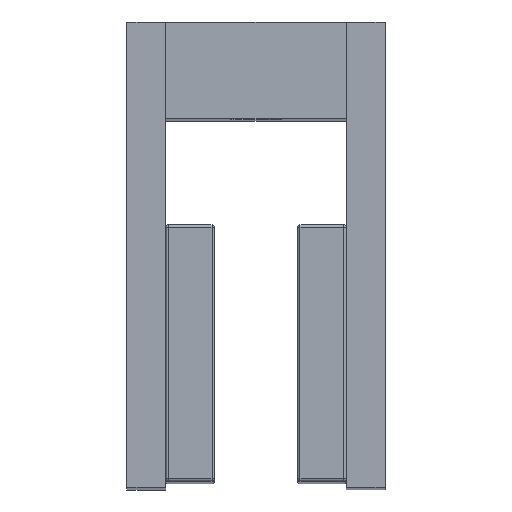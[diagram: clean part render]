
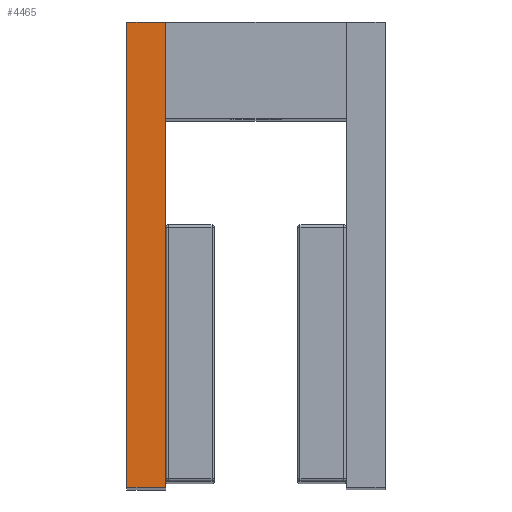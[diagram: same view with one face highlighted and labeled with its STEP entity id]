
A CAD part, top view. The second image highlights one B-rep face of the part: STEP entity #4465.
In plain terms, the highlighted planar face has unit normal (0, 0, 1) as drawn and (-1, 0, 0) by its records, which use the part's own axes.
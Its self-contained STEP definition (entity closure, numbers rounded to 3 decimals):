
#1608 = VERTEX_POINT ( 'NONE', #16107 ) ;
#2167 = FACE_OUTER_BOUND ( 'NONE', #11105, .T. ) ;
#2402 = VECTOR ( 'NONE', #16058, 1000. ) ;
#2984 = DIRECTION ( 'NONE',  ( 0., 0., -1. ) ) ;
#3138 = EDGE_CURVE ( 'NONE', #8458, #3214, #6064, .T. ) ;
#3214 = VERTEX_POINT ( 'NONE', #13606 ) ;
#3229 = CARTESIAN_POINT ( 'NONE',  ( 0., 38.1, 3.175 ) ) ;
#3396 = CARTESIAN_POINT ( 'NONE',  ( 0., 0., 3.175 ) ) ;
#3690 = ORIENTED_EDGE ( 'NONE', *, *, #3138, .T. ) ;
#3919 = DIRECTION ( 'NONE',  ( 0., 0., -1. ) ) ;
#4075 = EDGE_CURVE ( 'NONE', #1608, #3214, #9733, .T. ) ;
#4465 = ADVANCED_FACE ( 'NONE', ( #2167 ), #15859, .F. ) ;
#5492 = EDGE_CURVE ( 'NONE', #13458, #1608, #14582, .T. ) ;
#5632 = VECTOR ( 'NONE', #2984, 1000. ) ;
#6064 = LINE ( 'NONE', #10536, #2402 ) ;
#7703 = VECTOR ( 'NONE', #3919, 1000. ) ;
#8458 = VERTEX_POINT ( 'NONE', #10264 ) ;
#8931 = DIRECTION ( 'NONE',  ( 0., 0., -1. ) ) ;
#9733 = LINE ( 'NONE', #16787, #5632 ) ;
#10264 = CARTESIAN_POINT ( 'NONE',  ( 0., 38.1, 0. ) ) ;
#10536 = CARTESIAN_POINT ( 'NONE',  ( 0., 0., 0. ) ) ;
#10839 = CARTESIAN_POINT ( 'NONE',  ( 0., 38.1, 3.175 ) ) ;
#10896 = VECTOR ( 'NONE', #15593, 1000. ) ;
#10966 = LINE ( 'NONE', #10839, #7703 ) ;
#11105 = EDGE_LOOP ( 'NONE', ( #3690, #14574, #14349, #12352 ) ) ;
#12352 = ORIENTED_EDGE ( 'NONE', *, *, #12628, .T. ) ;
#12628 = EDGE_CURVE ( 'NONE', #13458, #8458, #10966, .T. ) ;
#12645 = AXIS2_PLACEMENT_3D ( 'NONE', #3396, #17263, #8931 ) ;
#13458 = VERTEX_POINT ( 'NONE', #3229 ) ;
#13606 = CARTESIAN_POINT ( 'NONE',  ( 0., 0., 0. ) ) ;
#14205 = CARTESIAN_POINT ( 'NONE',  ( 0., 0., 3.175 ) ) ;
#14349 = ORIENTED_EDGE ( 'NONE', *, *, #5492, .F. ) ;
#14574 = ORIENTED_EDGE ( 'NONE', *, *, #4075, .F. ) ;
#14582 = LINE ( 'NONE', #14205, #10896 ) ;
#15593 = DIRECTION ( 'NONE',  ( 0., -1., 0. ) ) ;
#15859 = PLANE ( 'NONE',  #12645 ) ;
#16058 = DIRECTION ( 'NONE',  ( 0., -1., 0. ) ) ;
#16107 = CARTESIAN_POINT ( 'NONE',  ( 0., 0., 3.175 ) ) ;
#16787 = CARTESIAN_POINT ( 'NONE',  ( 0., 0., 3.175 ) ) ;
#17263 = DIRECTION ( 'NONE',  ( 1., 0., 0. ) ) ;
